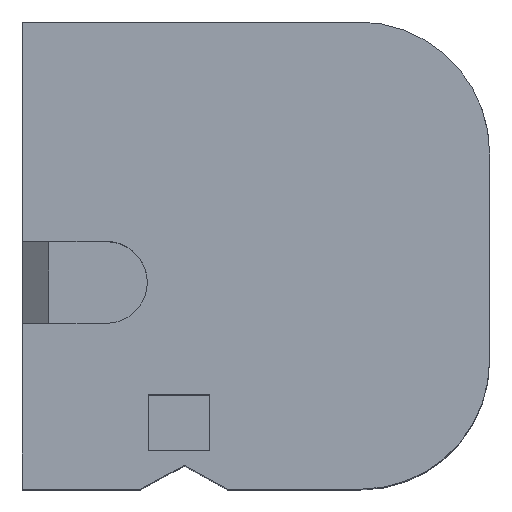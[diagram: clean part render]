
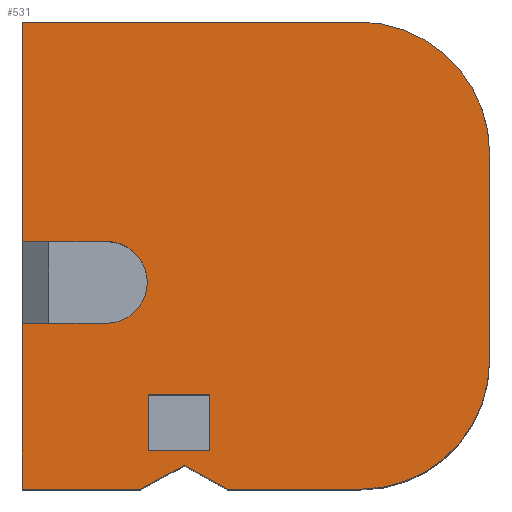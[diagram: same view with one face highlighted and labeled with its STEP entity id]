
A CAD part, top view. The second image highlights one B-rep face of the part: STEP entity #531.
In plain terms, the highlighted planar face has unit normal (0, 0, 1).
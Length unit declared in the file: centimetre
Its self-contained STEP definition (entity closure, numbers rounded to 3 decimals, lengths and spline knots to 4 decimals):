
#5 = EDGE_LOOP ( 'NONE', ( #979, #619, #623, #193, #889, #45, #380, #480, #970, #495, #177, #115, #216, #400 ) ) ;
#6 = CARTESIAN_POINT ( 'NONE',  ( 0., 530.343, 1000. ) ) ;
#21 = CARTESIAN_POINT ( 'NONE',  ( 179.611, 530.343, 1000. ) ) ;
#23 = EDGE_LOOP ( 'NONE', ( #243, #506, #164, #125 ) ) ;
#29 = CARTESIAN_POINT ( 'NONE',  ( 253.379, 0., 1000. ) ) ;
#45 = ORIENTED_EDGE ( 'NONE', *, *, #835, .T. ) ;
#67 = VECTOR ( 'NONE', #537, 100. ) ;
#85 = CARTESIAN_POINT ( 'NONE',  ( 1000., 1000., 1000. ) ) ;
#103 = CARTESIAN_POINT ( 'NONE',  ( 346.0648, 50.8462, 1000. ) ) ;
#105 = CARTESIAN_POINT ( 'NONE',  ( 401.335, 82.4272, 1000. ) ) ;
#111 = CIRCLE ( 'NONE', #466, 87.6643 ) ;
#115 = ORIENTED_EDGE ( 'NONE', *, *, #301, .T. ) ;
#123 = DIRECTION ( 'NONE',  ( 1., 0., 0. ) ) ;
#125 = ORIENTED_EDGE ( 'NONE', *, *, #290, .F. ) ;
#138 = VERTEX_POINT ( 'NONE', #793 ) ;
#147 = VECTOR ( 'NONE', #316, 100. ) ;
#156 = DIRECTION ( 'NONE',  ( 1., 0., 0. ) ) ;
#164 = ORIENTED_EDGE ( 'NONE', *, *, #515, .F. ) ;
#177 = ORIENTED_EDGE ( 'NONE', *, *, #767, .T. ) ;
#178 = CARTESIAN_POINT ( 'NONE',  ( 438.7506, 0., 1000. ) ) ;
#191 = VECTOR ( 'NONE', #703, 100. ) ;
#193 = ORIENTED_EDGE ( 'NONE', *, *, #457, .F. ) ;
#196 = DIRECTION ( 'NONE',  ( 1., 0., 0. ) ) ;
#206 = VERTEX_POINT ( 'NONE', #507 ) ;
#207 = LINE ( 'NONE', #445, #662 ) ;
#216 = ORIENTED_EDGE ( 'NONE', *, *, #393, .T. ) ;
#223 = CARTESIAN_POINT ( 'NONE',  ( 401.335, 82.4272, 1000. ) ) ;
#224 = EDGE_CURVE ( 'NONE', #634, #813, #651, .T. ) ;
#235 = CARTESIAN_POINT ( 'NONE',  ( 269.5736, 202.0929, 1000. ) ) ;
#236 = VECTOR ( 'NONE', #728, 100. ) ;
#242 = EDGE_CURVE ( 'NONE', #264, #722, #809, .T. ) ;
#243 = ORIENTED_EDGE ( 'NONE', *, *, #269, .F. ) ;
#245 = DIRECTION ( 'NONE',  ( 1., 0., 0. ) ) ;
#247 = CARTESIAN_POINT ( 'NONE',  ( 179.611, 442.6787, 1000. ) ) ;
#259 = LINE ( 'NONE', #21, #335 ) ;
#260 = VERTEX_POINT ( 'NONE', #105 ) ;
#264 = VERTEX_POINT ( 'NONE', #178 ) ;
#266 = DIRECTION ( 'NONE',  ( 0., -1., 0. ) ) ;
#269 = EDGE_CURVE ( 'NONE', #281, #946, #792, .T. ) ;
#271 = CARTESIAN_POINT ( 'NONE',  ( 269.5736, 82.4272, 1000. ) ) ;
#278 = CARTESIAN_POINT ( 'NONE',  ( 269.5736, 82.4272, 1000. ) ) ;
#281 = VERTEX_POINT ( 'NONE', #787 ) ;
#282 = VERTEX_POINT ( 'NONE', #412 ) ;
#289 = VERTEX_POINT ( 'NONE', #29 ) ;
#290 = EDGE_CURVE ( 'NONE', #946, #260, #961, .T. ) ;
#294 = DIRECTION ( 'NONE',  ( 1., 0., 0. ) ) ;
#296 = CARTESIAN_POINT ( 'NONE',  ( 724.1643, 275.8357, 1000. ) ) ;
#299 = VERTEX_POINT ( 'NONE', #334 ) ;
#301 = EDGE_CURVE ( 'NONE', #972, #206, #919, .T. ) ;
#307 = VECTOR ( 'NONE', #658, 100. ) ;
#316 = DIRECTION ( 'NONE',  ( 0., 1., 0. ) ) ;
#333 = VECTOR ( 'NONE', #760, 100. ) ;
#334 = CARTESIAN_POINT ( 'NONE',  ( 0., 355.0144, 1000. ) ) ;
#335 = VECTOR ( 'NONE', #638, 100. ) ;
#340 = CARTESIAN_POINT ( 'NONE',  ( 0., 0., 1000. ) ) ;
#347 = CARTESIAN_POINT ( 'NONE',  ( 0., 1000., 1000. ) ) ;
#355 = VECTOR ( 'NONE', #196, 100. ) ;
#362 = CARTESIAN_POINT ( 'NONE',  ( 179.611, 442.6787, 1000. ) ) ;
#371 = VERTEX_POINT ( 'NONE', #975 ) ;
#372 = AXIS2_PLACEMENT_3D ( 'NONE', #296, #378, #156 ) ;
#378 = DIRECTION ( 'NONE',  ( 0., 0., 1. ) ) ;
#379 = CARTESIAN_POINT ( 'NONE',  ( 0., 355.0144, 1000. ) ) ;
#380 = ORIENTED_EDGE ( 'NONE', *, *, #596, .F. ) ;
#387 = CIRCLE ( 'NONE', #372, 275.8357 ) ;
#393 = EDGE_CURVE ( 'NONE', #206, #634, #207, .T. ) ;
#398 = DIRECTION ( 'NONE',  ( -0.877, 0.481, 0. ) ) ;
#400 = ORIENTED_EDGE ( 'NONE', *, *, #224, .T. ) ;
#403 = LINE ( 'NONE', #560, #784 ) ;
#404 = EDGE_CURVE ( 'NONE', #138, #951, #782, .T. ) ;
#408 = CARTESIAN_POINT ( 'NONE',  ( 179.611, 530.343, 1000. ) ) ;
#412 = CARTESIAN_POINT ( 'NONE',  ( 1000., 275.8357, 1000. ) ) ;
#432 = LINE ( 'NONE', #347, #307 ) ;
#445 = CARTESIAN_POINT ( 'NONE',  ( 0., 1000., 1000. ) ) ;
#457 = EDGE_CURVE ( 'NONE', #299, #650, #608, .T. ) ;
#459 = DIRECTION ( 'NONE',  ( 0., 0., 1. ) ) ;
#466 = AXIS2_PLACEMENT_3D ( 'NONE', #247, #557, #854 ) ;
#469 = LINE ( 'NONE', #223, #67 ) ;
#480 = ORIENTED_EDGE ( 'NONE', *, *, #936, .F. ) ;
#485 = CARTESIAN_POINT ( 'NONE',  ( 401.335, 202.0929, 1000. ) ) ;
#494 = LINE ( 'NONE', #103, #771 ) ;
#495 = ORIENTED_EDGE ( 'NONE', *, *, #739, .T. ) ;
#497 = AXIS2_PLACEMENT_3D ( 'NONE', #588, #645, #655 ) ;
#506 = ORIENTED_EDGE ( 'NONE', *, *, #681, .F. ) ;
#507 = CARTESIAN_POINT ( 'NONE',  ( 719.5985, 1000., 1000. ) ) ;
#515 = EDGE_CURVE ( 'NONE', #260, #901, #469, .T. ) ;
#518 = AXIS2_PLACEMENT_3D ( 'NONE', #362, #830, #294 ) ;
#531 = ADVANCED_FACE ( 'NONE', ( #621, #544 ), #914, .T. ) ;
#534 = VECTOR ( 'NONE', #266, 100. ) ;
#537 = DIRECTION ( 'NONE',  ( 0., 1., 0. ) ) ;
#544 = FACE_OUTER_BOUND ( 'NONE', #5, .T. ) ;
#549 = CARTESIAN_POINT ( 'NONE',  ( 0., 1000., 1000. ) ) ;
#550 = CARTESIAN_POINT ( 'NONE',  ( 1000., 719.5985, 1000. ) ) ;
#557 = DIRECTION ( 'NONE',  ( 0., 0., 1. ) ) ;
#560 = CARTESIAN_POINT ( 'NONE',  ( 0., 0., 1000. ) ) ;
#581 = VECTOR ( 'NONE', #123, 100. ) ;
#588 = CARTESIAN_POINT ( 'NONE',  ( 719.5985, 719.5985, 1000. ) ) ;
#595 = VERTEX_POINT ( 'NONE', #774 ) ;
#596 = EDGE_CURVE ( 'NONE', #371, #289, #842, .T. ) ;
#608 = LINE ( 'NONE', #379, #801 ) ;
#616 = CARTESIAN_POINT ( 'NONE',  ( 0., 0., 1000. ) ) ;
#619 = ORIENTED_EDGE ( 'NONE', *, *, #404, .F. ) ;
#621 = FACE_BOUND ( 'NONE', #23, .T. ) ;
#623 = ORIENTED_EDGE ( 'NONE', *, *, #668, .F. ) ;
#634 = VERTEX_POINT ( 'NONE', #549 ) ;
#638 = DIRECTION ( 'NONE',  ( -1., 0., 0. ) ) ;
#645 = DIRECTION ( 'NONE',  ( 0., 0., 1. ) ) ;
#650 = VERTEX_POINT ( 'NONE', #778 ) ;
#651 = LINE ( 'NONE', #796, #236 ) ;
#655 = DIRECTION ( 'NONE',  ( 1., 0., 0. ) ) ;
#658 = DIRECTION ( 'NONE',  ( 0., -1., 0. ) ) ;
#662 = VECTOR ( 'NONE', #971, 100. ) ;
#668 = EDGE_CURVE ( 'NONE', #650, #138, #111, .T. ) ;
#681 = EDGE_CURVE ( 'NONE', #901, #281, #756, .T. ) ;
#685 = CARTESIAN_POINT ( 'NONE',  ( 724.1643, 0., 1000. ) ) ;
#703 = DIRECTION ( 'NONE',  ( -0.877, -0.481, 0. ) ) ;
#705 = AXIS2_PLACEMENT_3D ( 'NONE', #616, #459, #838 ) ;
#722 = VERTEX_POINT ( 'NONE', #685 ) ;
#728 = DIRECTION ( 'NONE',  ( 0., -1., 0. ) ) ;
#739 = EDGE_CURVE ( 'NONE', #722, #282, #387, .T. ) ;
#756 = LINE ( 'NONE', #235, #333 ) ;
#760 = DIRECTION ( 'NONE',  ( -1., 0., 0. ) ) ;
#767 = EDGE_CURVE ( 'NONE', #282, #972, #985, .T. ) ;
#771 = VECTOR ( 'NONE', #398, 100. ) ;
#774 = CARTESIAN_POINT ( 'NONE',  ( 0., 0., 1000. ) ) ;
#778 = CARTESIAN_POINT ( 'NONE',  ( 179.611, 355.0144, 1000. ) ) ;
#782 = CIRCLE ( 'NONE', #518, 87.6643 ) ;
#784 = VECTOR ( 'NONE', #245, 100. ) ;
#787 = CARTESIAN_POINT ( 'NONE',  ( 269.5736, 202.0929, 1000. ) ) ;
#792 = LINE ( 'NONE', #278, #534 ) ;
#793 = CARTESIAN_POINT ( 'NONE',  ( 267.2753, 442.6787, 1000. ) ) ;
#796 = CARTESIAN_POINT ( 'NONE',  ( 0., 1000., 1000. ) ) ;
#801 = VECTOR ( 'NONE', #983, 100. ) ;
#809 = LINE ( 'NONE', #340, #581 ) ;
#813 = VERTEX_POINT ( 'NONE', #6 ) ;
#830 = DIRECTION ( 'NONE',  ( 0., 0., 1. ) ) ;
#835 = EDGE_CURVE ( 'NONE', #595, #289, #403, .T. ) ;
#838 = DIRECTION ( 'NONE',  ( 1., 0., 0. ) ) ;
#842 = LINE ( 'NONE', #915, #191 ) ;
#854 = DIRECTION ( 'NONE',  ( 1., 0., 0. ) ) ;
#889 = ORIENTED_EDGE ( 'NONE', *, *, #982, .T. ) ;
#901 = VERTEX_POINT ( 'NONE', #485 ) ;
#914 = PLANE ( 'NONE',  #705 ) ;
#915 = CARTESIAN_POINT ( 'NONE',  ( 253.379, 0., 1000. ) ) ;
#917 = EDGE_CURVE ( 'NONE', #951, #813, #259, .T. ) ;
#919 = CIRCLE ( 'NONE', #497, 280.4015 ) ;
#926 = CARTESIAN_POINT ( 'NONE',  ( 269.5736, 82.4272, 1000. ) ) ;
#936 = EDGE_CURVE ( 'NONE', #264, #371, #494, .T. ) ;
#946 = VERTEX_POINT ( 'NONE', #926 ) ;
#951 = VERTEX_POINT ( 'NONE', #408 ) ;
#961 = LINE ( 'NONE', #271, #355 ) ;
#970 = ORIENTED_EDGE ( 'NONE', *, *, #242, .T. ) ;
#971 = DIRECTION ( 'NONE',  ( -1., 0., 0. ) ) ;
#972 = VERTEX_POINT ( 'NONE', #550 ) ;
#975 = CARTESIAN_POINT ( 'NONE',  ( 346.0648, 50.8462, 1000. ) ) ;
#979 = ORIENTED_EDGE ( 'NONE', *, *, #917, .F. ) ;
#982 = EDGE_CURVE ( 'NONE', #299, #595, #432, .T. ) ;
#983 = DIRECTION ( 'NONE',  ( 1., 0., 0. ) ) ;
#985 = LINE ( 'NONE', #85, #147 ) ;
